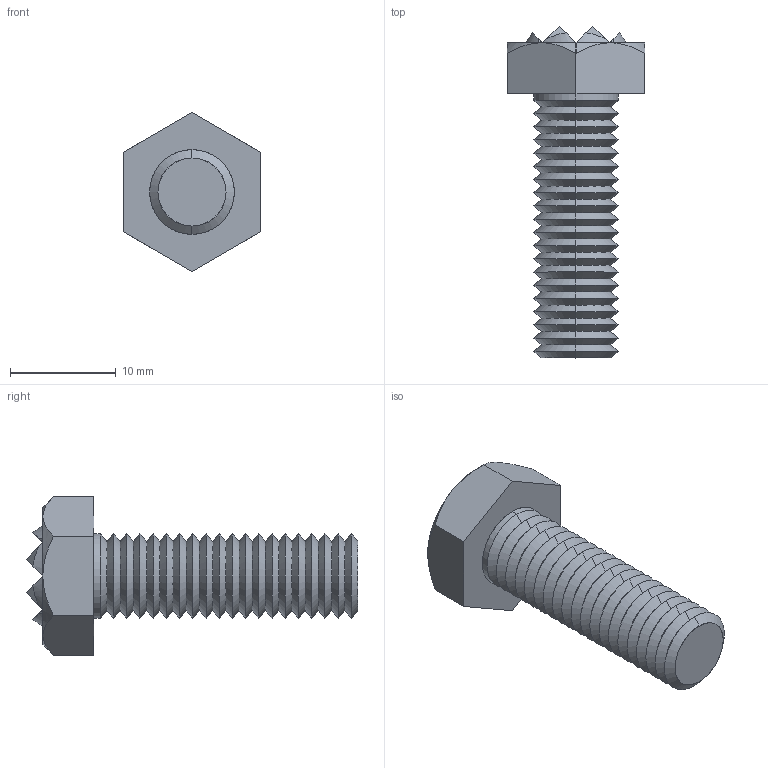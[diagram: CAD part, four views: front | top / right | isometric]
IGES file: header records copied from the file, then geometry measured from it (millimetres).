
Start section: SolidWorks IGES file using analytic representation for surfaces
Global section: file name: C:\Documents and Settings\IANO\Desktop\Temp File\Process pending\NEW\35400_v2\35400_v2_20170704_IGES\35400.W0004.igs; native system: SolidWorks 2009; preprocessor: SolidWorks 2009; author: IANO; date: 170703.082041; units: millimetre
Bounding box: 13 x 31.4 x 15.01 mm (x, y, z)
Surface area: 1417.1 mm2 (no closed solid volume)
Topology: 0 solids, 0 shells, 156 faces, 809 edges, 809 vertices
Faces by surface type: revolution 99, bspline 57
